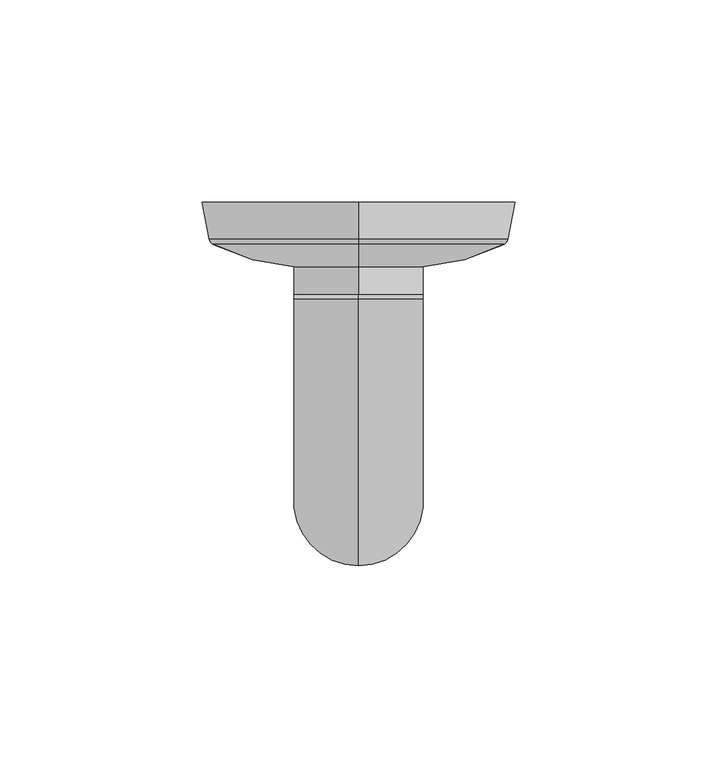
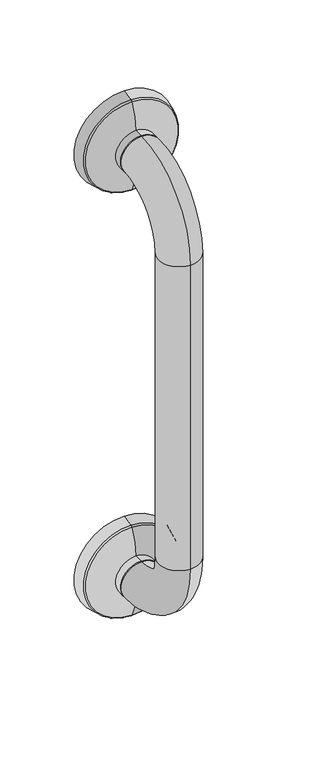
"""IFC4 building model written with IfcOpenShell, lengths in millimetres: proxy geometry, Grab Rail_Metlam_Straight_Vertical : 382long x 90d x 32w (ML328SS)."""

from ifc_helpers import new_model, si_unit, point, frame, origin, place, context, project, spatial, polyline, circle_curve, ellipse_curve, trimmed, source, transform, mapped, element, save
from ifc_brep_helpers import plane_surface, cylinder_surface, revolved_surface, advanced_brep


def specialty_equipment_da49c81a(model_context):
    return source(origin(), model_context, "Body", "AdvancedBrep", [
        advanced_brep(
        [(0.0, -90.0, 834.0), (0.0, -24.0, 768.0), (0.0, -24.0, 800.0), (0.0, -58.0, 834.0), (0.0, -58.0, 1084.0), (0.0, -90.0, 1084.0), (0.0, -24.0, 1118.0), (0.0, -24.0, 1150.0), (0.0, -23.0, 768.0), (0.0, -23.0, 800.0), (0.0, -23.0, 1118.0), (0.0, -23.0, 1150.0), (0.0, 0.0, 1134.0), (0.0, 0.0, 1095.0), (0.0, 0.0, 1173.0), (0.0, -9.0646354, 1096.8129271), (0.0, -9.0646354, 1171.1870729), (0.0, -10.4521085, 1170.1384075), (0.0, -10.4521085, 1097.8615925), (0.0, -16.0065539, 1118.0), (0.0, -16.0065539, 1150.0), (0.0, -9.0646354, 746.8129271), (0.0, -9.0646354, 821.1870729), (0.0, 0.0, 823.0), (0.0, 0.0, 745.0), (0.0, -16.0065539, 768.0), (0.0, -16.0065539, 800.0), (0.0, -10.4521085, 820.1384075), (0.0, -10.4521085, 747.8615925), (0.0, 0.0, 784.0)],
        [
            (0, 1, circle_curve(frame((0.0, -24.0, 834.0), z_axis=(1.0, 0.0, 0.0), x_axis=(0.0, 0.0, -1.0)), 66.0)),
            (1, 2, circle_curve(frame((0.0, -24.0, 784.0), z_axis=(0.0, -1.0, 0.0), x_axis=(0.0, 0.0, -1.0)), 16.0)),
            (2, 3, circle_curve(frame((0.0, -24.0, 834.0), z_axis=(-1.0, 0.0, 0.0), x_axis=(0.0, 0.0, -1.0)), 34.0)),
            (3, 0, circle_curve(frame((0.0, -74.0, 834.0), z_axis=(0.0, 0.0, -1.0), x_axis=(0.0, -1.0, 0.0)), 16.0)),
            (0, 3, circle_curve(frame((0.0, -74.0, 834.0), z_axis=(0.0, 0.0, -1.0), x_axis=(0.0, -1.0, 0.0)), 16.0)),
            (2, 1, circle_curve(frame((0.0, -24.0, 784.0), z_axis=(0.0, -1.0, 0.0), x_axis=(0.0, 0.0, -1.0)), 16.0)),
            (3, 4),
            (4, 5, circle_curve(frame((0.0, -74.0, 1084.0), z_axis=(0.0, 0.0, -1.0), x_axis=(0.0, -1.0, 0.0)), 16.0)),
            (5, 0),
            (5, 4, circle_curve(frame((0.0, -74.0, 1084.0), z_axis=(0.0, 0.0, -1.0), x_axis=(0.0, -1.0, 0.0)), 16.0)),
            (4, 6, circle_curve(frame((0.0, -24.0, 1084.0), z_axis=(-1.0, 0.0, 0.0), x_axis=(0.0, -1.0, 0.0)), 34.0)),
            (6, 7, circle_curve(frame((0.0, -24.0, 1134.0), z_axis=(0.0, -1.0, 0.0), x_axis=(0.0, 0.0, 1.0)), 16.0)),
            (7, 5, circle_curve(frame((0.0, -24.0, 1084.0), z_axis=(1.0, 0.0, 0.0), x_axis=(0.0, -1.0, 0.0)), 66.0)),
            (7, 6, circle_curve(frame((0.0, -24.0, 1134.0), z_axis=(0.0, -1.0, 0.0), x_axis=(0.0, 0.0, 1.0)), 16.0)),
            (1, 8),
            (8, 9, circle_curve(frame((0.0, -23.0, 784.0), z_axis=(0.0, -1.0, 0.0), x_axis=(0.0, 0.0, -1.0)), 16.0)),
            (9, 2),
            (9, 8, circle_curve(frame((0.0, -23.0, 784.0), z_axis=(0.0, -1.0, 0.0), x_axis=(0.0, 0.0, -1.0)), 16.0)),
            (6, 10),
            (10, 11, circle_curve(frame((0.0, -23.0, 1134.0), z_axis=(0.0, -1.0, 0.0), x_axis=(0.0, 0.0, 1.0)), 16.0)),
            (11, 7),
            (11, 10, circle_curve(frame((0.0, -23.0, 1134.0), z_axis=(0.0, -1.0, 0.0), x_axis=(0.0, 0.0, 1.0)), 16.0)),
            (12, 13),
            (13, 14, circle_curve(frame((0.0, 0.0, 1134.0), z_axis=(0.0, 1.0, 0.0), x_axis=(0.0, 0.0, -1.0)), 39.0)),
            (14, 12),
            (14, 13, circle_curve(frame((0.0, 0.0, 1134.0), z_axis=(0.0, 1.0, 0.0), x_axis=(0.0, 0.0, -1.0)), 39.0)),
            (13, 15),
            (15, 16, circle_curve(frame((0.0, -9.0646354, 1134.0), z_axis=(0.0, 1.0, 0.0), x_axis=(0.0, 0.0, -1.0)), 37.1870729)),
            (16, 14),
            (16, 15, circle_curve(frame((0.0, -9.0646354, 1134.0), z_axis=(0.0, 1.0, 0.0), x_axis=(0.0, 0.0, -1.0)), 37.1870729)),
            (17, 18, circle_curve(frame((0.0, -10.4521085, 1134.0), z_axis=(0.0, -1.0, 0.0), x_axis=(0.0, 0.0, -1.0)), 36.1384075)),
            (18, 19, circle_curve(frame((0.0, 35.2834961, 1121.3112908), z_axis=(-1.0, 0.0, 0.0), x_axis=(0.0, 1.0, 0.0)), 51.3968275)),
            (19, 20, circle_curve(frame((0.0, -16.0065539, 1134.0), z_axis=(0.0, 1.0, 0.0), x_axis=(0.0, 0.0, -1.0)), 16.0)),
            (20, 17, circle_curve(frame((0.0, 35.2834961, 1146.6887092), z_axis=(-1.0, 0.0, 0.0), x_axis=(0.0, 1.0, 0.0)), 51.3968275)),
            (18, 17, circle_curve(frame((0.0, -10.4521085, 1134.0), z_axis=(0.0, -1.0, 0.0), x_axis=(0.0, 0.0, -1.0)), 36.1384075)),
            (20, 19, circle_curve(frame((0.0, -16.0065539, 1134.0), z_axis=(0.0, 1.0, 0.0), x_axis=(0.0, 0.0, -1.0)), 16.0)),
            (19, 10),
            (11, 20),
            (15, 18, circle_curve(frame((0.0, -8.6724031, 1098.7740884), z_axis=(-1.0, 0.0, 0.0), x_axis=(0.0, 1.0, 0.0)), 2.0)),
            (17, 16, circle_curve(frame((0.0, -8.6724031, 1169.2259116), z_axis=(-1.0, 0.0, 0.0), x_axis=(0.0, 1.0, 0.0)), 2.0)),
            (21, 22, circle_curve(frame((0.0, -9.0646354, 784.0), z_axis=(0.0, 1.0, 0.0), x_axis=(0.0, 0.0, 1.0)), 37.1870729)),
            (22, 23),
            (23, 24, circle_curve(frame((0.0, 0.0, 784.0), z_axis=(0.0, -1.0, 0.0), x_axis=(0.0, 0.0, 1.0)), 39.0)),
            (24, 21),
            (22, 21, circle_curve(frame((0.0, -9.0646354, 784.0), z_axis=(0.0, 1.0, 0.0), x_axis=(0.0, 0.0, 1.0)), 37.1870729)),
            (24, 23, circle_curve(frame((0.0, 0.0, 784.0), z_axis=(0.0, -1.0, 0.0), x_axis=(0.0, 0.0, 1.0)), 39.0)),
            (25, 26, circle_curve(frame((0.0, -16.0065539, 784.0), z_axis=(0.0, 1.0, 0.0), x_axis=(0.0, 0.0, 1.0)), 16.0)),
            (26, 27, circle_curve(frame((0.0, 35.2834961, 796.6887092), z_axis=(-1.0, 0.0, 0.0), x_axis=(0.0, 1.0, 0.0)), 51.3968275)),
            (27, 28, circle_curve(frame((0.0, -10.4521085, 784.0), z_axis=(0.0, -1.0, 0.0), x_axis=(0.0, 0.0, 1.0)), 36.1384075)),
            (28, 25, circle_curve(frame((0.0, 35.2834961, 771.3112908), z_axis=(-1.0, 0.0, 0.0), x_axis=(0.0, 1.0, 0.0)), 51.3968275)),
            (26, 25, circle_curve(frame((0.0, -16.0065539, 784.0), z_axis=(0.0, 1.0, 0.0), x_axis=(0.0, 0.0, 1.0)), 16.0)),
            (28, 27, circle_curve(frame((0.0, -10.4521085, 784.0), z_axis=(0.0, -1.0, 0.0), x_axis=(0.0, 0.0, 1.0)), 36.1384075)),
            (25, 8),
            (9, 26),
            (23, 29),
            (29, 24),
            (21, 28, circle_curve(frame((0.0, -8.6724031, 748.7740884), z_axis=(-1.0, 0.0, 0.0), x_axis=(0.0, 1.0, 0.0)), 2.0)),
            (27, 22, circle_curve(frame((0.0, -8.6724031, 819.2259116), z_axis=(-1.0, 0.0, 0.0), x_axis=(0.0, 1.0, 0.0)), 2.0)),
        ],
        [
            revolved_surface(trimmed(ellipse_curve(frame((0.0, -24.0, 784.0), z_axis=(0.0, 1.0, 0.0), x_axis=(0.0, 0.0, -1.0)), 16.0, 16.0), [point((0.0, -24.0, 800.0))], [point((0.0, -24.0, 768.0))], True, "CARTESIAN"), (0.0, -24.0, 834.0), (-1.0, 0.0, 0.0)),
            revolved_surface(trimmed(ellipse_curve(frame((0.0, -24.0, 784.0), z_axis=(0.0, 1.0, 0.0), x_axis=(0.0, 0.0, -1.0)), 16.0, 16.0), [point((0.0, -24.0, 768.0))], [point((0.0, -24.0, 800.0))], True, "CARTESIAN"), (0.0, -24.0, 834.0), (-1.0, 0.0, 0.0)),
            cylinder_surface(frame((0.0, -74.0, 834.0), z_axis=(0.0, 0.0, -1.0), x_axis=(0.0, -1.0, 0.0)), 16.0),
            revolved_surface(trimmed(ellipse_curve(frame((0.0, -74.0, 1084.0), z_axis=(0.0, 0.0, -1.0), x_axis=(0.0, -1.0, 0.0)), 16.0, 16.0), [point((0.0, -58.0, 1084.0))], [point((0.0, -90.0, 1084.0))], True, "CARTESIAN"), (0.0, -24.0, 1084.0), (-1.0, 0.0, 0.0)),
            revolved_surface(trimmed(ellipse_curve(frame((0.0, -74.0, 1084.0), z_axis=(0.0, 0.0, -1.0), x_axis=(0.0, -1.0, 0.0)), 16.0, 16.0), [point((0.0, -90.0, 1084.0))], [point((0.0, -58.0, 1084.0))], True, "CARTESIAN"), (0.0, -24.0, 1084.0), (-1.0, 0.0, 0.0)),
            cylinder_surface(frame((0.0, -23.0, 784.0), z_axis=(0.0, 1.0, 0.0), x_axis=(0.0, 0.0, -1.0)), 16.0),
            cylinder_surface(frame((0.0, -24.0, 1134.0), z_axis=(0.0, -1.0, 0.0), x_axis=(0.0, 0.0, 1.0)), 16.0),
            plane_surface(frame((0.0, 0.0, 1134.0), z_axis=(0.0, 1.0, 0.0), x_axis=(0.0, 0.0, -1.0))),
            revolved_surface(polyline([(0.0, -9.0646354, 1096.8129271), (0.0, 0.0, 1095.0)]), (0.0, -10.0, 1134.0), (0.0, 1.0, 0.0)),
            revolved_surface(trimmed(ellipse_curve(frame((0.0, 35.2834961, 1121.3112908), z_axis=(1.0, 0.0, 0.0), x_axis=(0.0, 1.0, 0.0)), 51.3968275, 51.3968275), [point((0.0, -16.0065539, 1118.0))], [point((0.0, -10.4521085, 1097.8615925))], True, "CARTESIAN"), (0.0, -10.0, 1134.0), (0.0, 1.0, 0.0)),
            cylinder_surface(frame((0.0, -10.0, 1134.0), z_axis=(0.0, 1.0, 0.0), x_axis=(0.0, 0.0, -1.0)), 16.0),
            revolved_surface(trimmed(ellipse_curve(frame((0.0, -8.6724031, 1098.7740884), z_axis=(1.0, 0.0, 0.0), x_axis=(0.0, 1.0, 0.0)), 2.0, 2.0), [point((0.0, -10.4521085, 1097.8615925))], [point((0.0, -9.0646354, 1096.8129271))], True, "CARTESIAN"), (0.0, -10.0, 1134.0), (0.0, 1.0, 0.0)),
            revolved_surface(polyline([(0.0, 0.0, 823.0), (0.0, -9.0646354, 821.1870729)]), (0.0, -10.0, 784.0), (0.0, -1.0, 0.0)),
            revolved_surface(trimmed(ellipse_curve(frame((0.0, 35.2834961, 796.6887092), z_axis=(1.0, 0.0, 0.0), x_axis=(0.0, 1.0, 0.0)), 51.3968275, 51.3968275), [point((0.0, -10.4521085, 820.1384075))], [point((0.0, -16.0065539, 800.0))], True, "CARTESIAN"), (0.0, -10.0, 784.0), (0.0, -1.0, 0.0)),
            cylinder_surface(frame((0.0, -10.0, 784.0), z_axis=(0.0, -1.0, 0.0), x_axis=(0.0, 0.0, 1.0)), 16.0),
            plane_surface(frame((0.0, 0.0, 784.0), z_axis=(0.0, 1.0, 0.0), x_axis=(0.0, 0.0, 1.0))),
            revolved_surface(trimmed(ellipse_curve(frame((0.0, -8.6724031, 819.2259116), z_axis=(1.0, 0.0, 0.0), x_axis=(0.0, 1.0, 0.0)), 2.0, 2.0), [point((0.0, -9.0646354, 821.1870729))], [point((0.0, -10.4521085, 820.1384075))], True, "CARTESIAN"), (0.0, -10.0, 784.0), (0.0, -1.0, 0.0)),
        ],
        [
            (0, [[1, 2, 3, 4]]),
            (1, [[-1, 5, -3, 6]]),
            (2, [[-4, 7, 8, 9]]),
            (2, [[-5, -9, 10, -7]]),
            (3, [[-8, 11, 12, 13]]),
            (4, [[-10, -13, 14, -11]]),
            (5, [[-2, 15, 16, 17]]),
            (5, [[-6, -17, 18, -15]]),
            (6, [[-12, 19, 20, 21]]),
            (6, [[-14, -21, 22, -19]]),
            (7, [[23, 24, 25]]),
            (7, [[-23, -25, 26]]),
            (8, [[-24, 27, 28, 29]]),
            (8, [[-26, -29, 30, -27]]),
            (9, [[31, 32, 33, 34]]),
            (9, [[-32, 35, -34, 36]]),
            (10, [[-33, 37, -22, 38]]),
            (10, [[-36, -38, -20, -37]]),
            (11, [[-28, 39, -31, 40]]),
            (11, [[-30, -40, -35, -39]]),
            (12, [[41, 42, 43, 44]]),
            (12, [[-42, 45, -44, 46]]),
            (13, [[47, 48, 49, 50]]),
            (13, [[-48, 51, -50, 52]]),
            (14, [[-47, 53, -18, 54]]),
            (14, [[-51, -54, -16, -53]]),
            (15, [[-43, 55, 56]]),
            (15, [[-46, -56, -55]]),
            (16, [[-41, 57, -49, 58]]),
            (16, [[-45, -58, -52, -57]]),
        ],
    ),
    ])


if __name__ == "__main__":
    model = new_model("IFC4")
    model_context = context("Model", 3, world=origin())
    ifc_project = project(units=[si_unit("LENGTHUNIT", "METRE", prefix="MILLI")], contexts=[model_context])
    site = spatial("IfcSite", under=ifc_project)
    building = spatial("IfcBuilding", under=site)
    placement = place(None, origin())
    specialty_equipment_shape = specialty_equipment_da49c81a(model_context)
    element("IfcBuildingElementProxy", 1, Name="Grab Rail_Metlam_Straight_Vertical : 382long x 90d x 32w (ML328SS)", ObjectType="Grab Rail_Metlam_Straight_Vertical : 382long x 90d x 32w (ML328SS)", at=placement, inside=building, context=model_context, shape_type="MappedRepresentation", body=[
        mapped(specialty_equipment_shape, transform((0.0, 0.0, 0.0), x_axis=(1.0, 0.0, 0.0), y_axis=(0.0, 1.0, 0.0), z_axis=(0.0, 0.0, 1.0))),
    ])
    save(model, "model.ifc")
